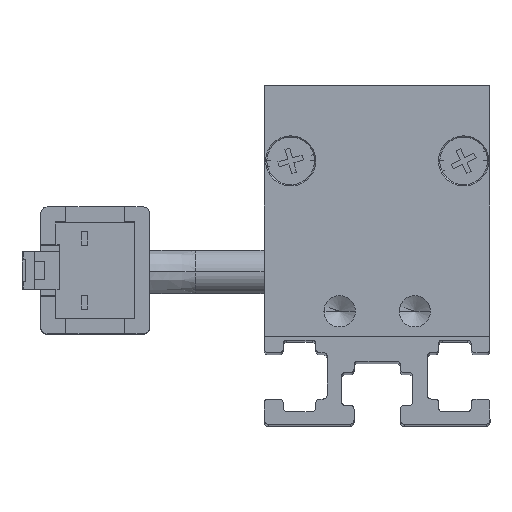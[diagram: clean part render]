
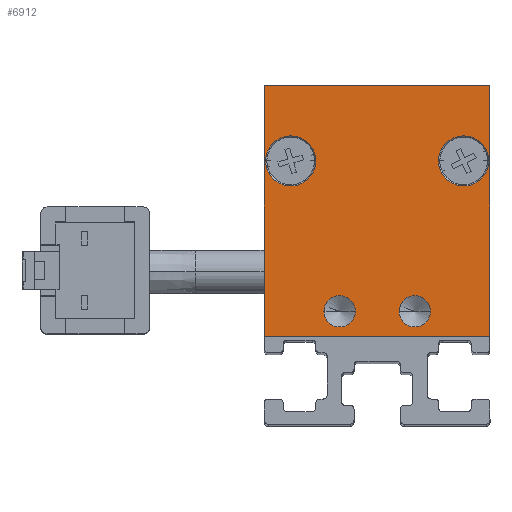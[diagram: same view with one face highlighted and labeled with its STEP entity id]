
A CAD part, top view. The second image highlights one B-rep face of the part: STEP entity #6912.
In plain terms, the highlighted planar face has unit normal (0, 0, 1) as drawn and (0, 0, -1) by its records, which use the part's own axes.
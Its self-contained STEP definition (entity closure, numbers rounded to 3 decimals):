
#20 = LINE ( 'NONE', #7104, #4136 ) ;
#55 = VERTEX_POINT ( 'NONE', #2822 ) ;
#68 = CIRCLE ( 'NONE', #8539, 2. ) ;
#90 = DIRECTION ( 'NONE',  ( 0., 0., -1. ) ) ;
#96 = DIRECTION ( 'NONE',  ( 0., 0., -1. ) ) ;
#192 = FACE_BOUND ( 'NONE', #8697, .T. ) ;
#389 = EDGE_CURVE ( 'NONE', #2353, #1714, #9138, .T. ) ;
#502 = VECTOR ( 'NONE', #4131, 1000. ) ;
#586 = ORIENTED_EDGE ( 'NONE', *, *, #4867, .F. ) ;
#672 = CARTESIAN_POINT ( 'NONE',  ( 6.9, 14., -2.5 ) ) ;
#722 = EDGE_LOOP ( 'NONE', ( #2262, #4956 ) ) ;
#905 = DIRECTION ( 'NONE',  ( 0., 0., -1. ) ) ;
#944 = ORIENTED_EDGE ( 'NONE', *, *, #9314, .F. ) ;
#997 = DIRECTION ( 'NONE',  ( -1., 0., 0. ) ) ;
#1014 = ORIENTED_EDGE ( 'NONE', *, *, #1262, .F. ) ;
#1139 = FACE_BOUND ( 'NONE', #4294, .T. ) ;
#1153 = CIRCLE ( 'NONE', #2772, 2. ) ;
#1197 = FACE_OUTER_BOUND ( 'NONE', #2162, .T. ) ;
#1262 = EDGE_CURVE ( 'NONE', #7474, #4125, #20, .T. ) ;
#1318 = DIRECTION ( 'NONE',  ( 0., 0., 1. ) ) ;
#1344 = CIRCLE ( 'NONE', #11066, 2. ) ;
#1635 = CARTESIAN_POINT ( 'NONE',  ( -9., 0., -2.5 ) ) ;
#1714 = VERTEX_POINT ( 'NONE', #7913 ) ;
#1745 = EDGE_CURVE ( 'NONE', #3806, #7474, #9799, .T. ) ;
#1945 = AXIS2_PLACEMENT_3D ( 'NONE', #672, #4541, #8384 ) ;
#2063 = CARTESIAN_POINT ( 'NONE',  ( 9., 20., -2.5 ) ) ;
#2074 = CARTESIAN_POINT ( 'NONE',  ( 9., 20., -2.5 ) ) ;
#2162 = EDGE_LOOP ( 'NONE', ( #1014, #7261, #586, #7553 ) ) ;
#2262 = ORIENTED_EDGE ( 'NONE', *, *, #2280, .F. ) ;
#2280 = EDGE_CURVE ( 'NONE', #1714, #2353, #2525, .T. ) ;
#2353 = VERTEX_POINT ( 'NONE', #7396 ) ;
#2399 = DIRECTION ( 'NONE',  ( 0., 0., -1. ) ) ;
#2416 = CARTESIAN_POINT ( 'NONE',  ( 6.9, 14., -2.5 ) ) ;
#2525 = CIRCLE ( 'NONE', #9580, 1.25 ) ;
#2772 = AXIS2_PLACEMENT_3D ( 'NONE', #2416, #10115, #9183 ) ;
#2822 = CARTESIAN_POINT ( 'NONE',  ( 1.75, 2., -2.5 ) ) ;
#3360 = ORIENTED_EDGE ( 'NONE', *, *, #4003, .F. ) ;
#3702 = DIRECTION ( 'NONE',  ( -1., 0., 0. ) ) ;
#3731 = VERTEX_POINT ( 'NONE', #6882 ) ;
#3806 = VERTEX_POINT ( 'NONE', #2063 ) ;
#3810 = VERTEX_POINT ( 'NONE', #9012 ) ;
#4003 = EDGE_CURVE ( 'NONE', #9903, #8066, #6399, .T. ) ;
#4038 = CARTESIAN_POINT ( 'NONE',  ( -9., 0., -2.5 ) ) ;
#4078 = DIRECTION ( 'NONE',  ( 0., -1., 0. ) ) ;
#4125 = VERTEX_POINT ( 'NONE', #1635 ) ;
#4126 = CIRCLE ( 'NONE', #8754, 1.25 ) ;
#4131 = DIRECTION ( 'NONE',  ( -1., 0., 0. ) ) ;
#4136 = VECTOR ( 'NONE', #4078, 1000. ) ;
#4181 = EDGE_CURVE ( 'NONE', #8066, #9903, #1153, .T. ) ;
#4294 = EDGE_LOOP ( 'NONE', ( #9178, #5155 ) ) ;
#4376 = DIRECTION ( 'NONE',  ( -1., 0., 0. ) ) ;
#4484 = CARTESIAN_POINT ( 'NONE',  ( -3., 2., -2.5 ) ) ;
#4541 = DIRECTION ( 'NONE',  ( 0., 0., -1. ) ) ;
#4632 = EDGE_CURVE ( 'NONE', #8178, #11864, #1344, .T. ) ;
#4867 = EDGE_CURVE ( 'NONE', #3810, #3806, #9781, .T. ) ;
#4956 = ORIENTED_EDGE ( 'NONE', *, *, #389, .F. ) ;
#5006 = DIRECTION ( 'NONE',  ( 1., 0., 0. ) ) ;
#5048 = AXIS2_PLACEMENT_3D ( 'NONE', #8153, #2399, #4376 ) ;
#5155 = ORIENTED_EDGE ( 'NONE', *, *, #9761, .F. ) ;
#5656 = CIRCLE ( 'NONE', #5048, 1.25 ) ;
#5717 = DIRECTION ( 'NONE',  ( -1., 0., 0. ) ) ;
#6077 = CARTESIAN_POINT ( 'NONE',  ( -8.9, 14., -2.5 ) ) ;
#6137 = CARTESIAN_POINT ( 'NONE',  ( 0., 0., -2.5 ) ) ;
#6141 = CARTESIAN_POINT ( 'NONE',  ( -9., 20., -2.5 ) ) ;
#6186 = DIRECTION ( 'NONE',  ( -1., 0., 0. ) ) ;
#6399 = CIRCLE ( 'NONE', #1945, 2. ) ;
#6882 = CARTESIAN_POINT ( 'NONE',  ( 4.25, 2., -2.5 ) ) ;
#6912 = ADVANCED_FACE ( 'NONE', ( #192, #9795, #1139, #8793, #1197 ), #7155, .F. ) ;
#6971 = ORIENTED_EDGE ( 'NONE', *, *, #4632, .F. ) ;
#7094 = EDGE_CURVE ( 'NONE', #55, #3731, #5656, .T. ) ;
#7104 = CARTESIAN_POINT ( 'NONE',  ( -9., 20., -2.5 ) ) ;
#7155 = PLANE ( 'NONE',  #10072 ) ;
#7185 = ORIENTED_EDGE ( 'NONE', *, *, #4181, .F. ) ;
#7261 = ORIENTED_EDGE ( 'NONE', *, *, #1745, .F. ) ;
#7396 = CARTESIAN_POINT ( 'NONE',  ( -1.75, 2., -2.5 ) ) ;
#7474 = VERTEX_POINT ( 'NONE', #9328 ) ;
#7553 = ORIENTED_EDGE ( 'NONE', *, *, #11561, .F. ) ;
#7863 = CARTESIAN_POINT ( 'NONE',  ( 3., 2., -2.5 ) ) ;
#7885 = DIRECTION ( 'NONE',  ( 1., 0., 0. ) ) ;
#7913 = CARTESIAN_POINT ( 'NONE',  ( -4.25, 2., -2.5 ) ) ;
#8021 = VECTOR ( 'NONE', #10851, 1000. ) ;
#8037 = CARTESIAN_POINT ( 'NONE',  ( 4.9, 14., -2.5 ) ) ;
#8066 = VERTEX_POINT ( 'NONE', #10439 ) ;
#8153 = CARTESIAN_POINT ( 'NONE',  ( 3., 2., -2.5 ) ) ;
#8178 = VERTEX_POINT ( 'NONE', #6077 ) ;
#8384 = DIRECTION ( 'NONE',  ( -1., 0., 0. ) ) ;
#8539 = AXIS2_PLACEMENT_3D ( 'NONE', #11295, #96, #10707 ) ;
#8697 = EDGE_LOOP ( 'NONE', ( #3360, #7185 ) ) ;
#8754 = AXIS2_PLACEMENT_3D ( 'NONE', #7863, #905, #5717 ) ;
#8793 = FACE_BOUND ( 'NONE', #722, .T. ) ;
#9012 = CARTESIAN_POINT ( 'NONE',  ( 9., 0., -2.5 ) ) ;
#9138 = CIRCLE ( 'NONE', #10755, 1.25 ) ;
#9178 = ORIENTED_EDGE ( 'NONE', *, *, #7094, .F. ) ;
#9183 = DIRECTION ( 'NONE',  ( -1., 0., 0. ) ) ;
#9205 = CARTESIAN_POINT ( 'NONE',  ( -4.9, 14., -2.5 ) ) ;
#9314 = EDGE_CURVE ( 'NONE', #11864, #8178, #68, .T. ) ;
#9328 = CARTESIAN_POINT ( 'NONE',  ( -9., 20., -2.5 ) ) ;
#9580 = AXIS2_PLACEMENT_3D ( 'NONE', #4484, #11165, #6186 ) ;
#9625 = CARTESIAN_POINT ( 'NONE',  ( -3., 2., -2.5 ) ) ;
#9761 = EDGE_CURVE ( 'NONE', #3731, #55, #4126, .T. ) ;
#9781 = LINE ( 'NONE', #2074, #8021 ) ;
#9795 = FACE_BOUND ( 'NONE', #12007, .T. ) ;
#9799 = LINE ( 'NONE', #6141, #502 ) ;
#9903 = VERTEX_POINT ( 'NONE', #8037 ) ;
#10072 = AXIS2_PLACEMENT_3D ( 'NONE', #6137, #1318, #5006 ) ;
#10115 = DIRECTION ( 'NONE',  ( 0., 0., -1. ) ) ;
#10320 = VECTOR ( 'NONE', #7885, 1000. ) ;
#10439 = CARTESIAN_POINT ( 'NONE',  ( 8.9, 14., -2.5 ) ) ;
#10707 = DIRECTION ( 'NONE',  ( -1., 0., 0. ) ) ;
#10755 = AXIS2_PLACEMENT_3D ( 'NONE', #9625, #90, #3702 ) ;
#10851 = DIRECTION ( 'NONE',  ( 0., 1., 0. ) ) ;
#11066 = AXIS2_PLACEMENT_3D ( 'NONE', #11486, #11548, #997 ) ;
#11165 = DIRECTION ( 'NONE',  ( 0., 0., -1. ) ) ;
#11295 = CARTESIAN_POINT ( 'NONE',  ( -6.9, 14., -2.5 ) ) ;
#11486 = CARTESIAN_POINT ( 'NONE',  ( -6.9, 14., -2.5 ) ) ;
#11548 = DIRECTION ( 'NONE',  ( 0., 0., -1. ) ) ;
#11561 = EDGE_CURVE ( 'NONE', #4125, #3810, #12476, .T. ) ;
#11864 = VERTEX_POINT ( 'NONE', #9205 ) ;
#12007 = EDGE_LOOP ( 'NONE', ( #6971, #944 ) ) ;
#12476 = LINE ( 'NONE', #4038, #10320 ) ;
